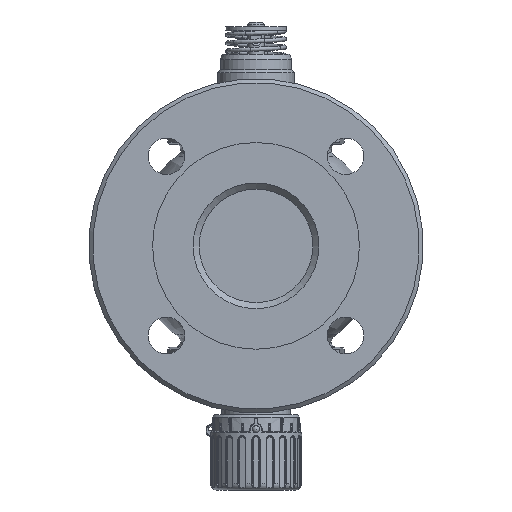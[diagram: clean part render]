
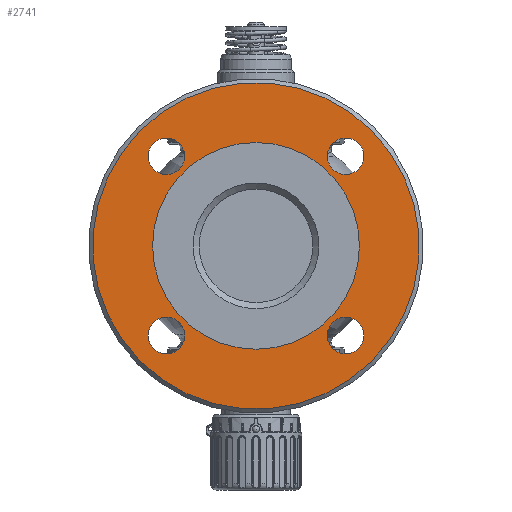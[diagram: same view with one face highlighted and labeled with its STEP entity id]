
A CAD part, left-side view. The second image highlights one B-rep face of the part: STEP entity #2741.
In plain terms, the highlighted planar face has unit normal (-1, 0, 0).
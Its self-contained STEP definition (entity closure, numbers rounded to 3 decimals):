
#1035=PLANE('',#9593);
#1733=CIRCLE('',#9547,51.);
#1756=CIRCLE('',#9588,80.5);
#1757=CIRCLE('',#9589,9.);
#1758=CIRCLE('',#9590,9.);
#1759=CIRCLE('',#9591,9.);
#1760=CIRCLE('',#9592,9.);
#2741=ADVANCED_FACE('',(#3084,#3085,#3086,#3087,#3088,#3089),#1035,.T.);
#3084=FACE_BOUND('',#3780,.T.);
#3085=FACE_BOUND('',#3781,.T.);
#3086=FACE_BOUND('',#3782,.T.);
#3087=FACE_BOUND('',#3783,.T.);
#3088=FACE_BOUND('',#3784,.T.);
#3089=FACE_BOUND('',#3785,.T.);
#3780=EDGE_LOOP('',(#6232));
#3781=EDGE_LOOP('',(#6233));
#3782=EDGE_LOOP('',(#6234));
#3783=EDGE_LOOP('',(#6235));
#3784=EDGE_LOOP('',(#6236));
#3785=EDGE_LOOP('',(#6237));
#6232=ORIENTED_EDGE('',*,*,#8271,.T.);
#6233=ORIENTED_EDGE('',*,*,#8242,.T.);
#6234=ORIENTED_EDGE('',*,*,#8272,.T.);
#6235=ORIENTED_EDGE('',*,*,#8273,.T.);
#6236=ORIENTED_EDGE('',*,*,#8274,.T.);
#6237=ORIENTED_EDGE('',*,*,#8275,.T.);
#7020=VERTEX_POINT('',#30184);
#7045=VERTEX_POINT('',#30286);
#7046=VERTEX_POINT('',#30288);
#7047=VERTEX_POINT('',#30290);
#7048=VERTEX_POINT('',#30292);
#7049=VERTEX_POINT('',#30294);
#8242=EDGE_CURVE('',#7020,#7020,#1733,.T.);
#8271=EDGE_CURVE('',#7045,#7045,#1756,.T.);
#8272=EDGE_CURVE('',#7046,#7046,#1757,.T.);
#8273=EDGE_CURVE('',#7047,#7047,#1758,.T.);
#8274=EDGE_CURVE('',#7048,#7048,#1759,.T.);
#8275=EDGE_CURVE('',#7049,#7049,#1760,.T.);
#9547=AXIS2_PLACEMENT_3D('',#30183,#11744,#11745);
#9588=AXIS2_PLACEMENT_3D('',#30285,#11830,#11831);
#9589=AXIS2_PLACEMENT_3D('',#30287,#11832,#11833);
#9590=AXIS2_PLACEMENT_3D('',#30289,#11834,#11835);
#9591=AXIS2_PLACEMENT_3D('',#30291,#11836,#11837);
#9592=AXIS2_PLACEMENT_3D('',#30293,#11838,#11839);
#9593=AXIS2_PLACEMENT_3D('',#30295,#11840,#11841);
#11744=DIRECTION('',(1.,0.,0.));
#11745=DIRECTION('',(0.,0.,1.));
#11830=DIRECTION('',(-1.,0.,0.));
#11831=DIRECTION('',(0.,-0.707,-0.707));
#11832=DIRECTION('',(1.,0.,0.));
#11833=DIRECTION('',(0.,0.707,-0.707));
#11834=DIRECTION('',(1.,0.,0.));
#11835=DIRECTION('',(0.,-0.707,-0.707));
#11836=DIRECTION('',(1.,0.,0.));
#11837=DIRECTION('',(0.,-0.707,0.707));
#11838=DIRECTION('',(1.,0.,0.));
#11839=DIRECTION('',(0.,0.707,0.707));
#11840=DIRECTION('',(-1.,0.,0.));
#11841=DIRECTION('',(0.,-0.707,-0.707));
#30183=CARTESIAN_POINT('',(-112.,0.,0.));
#30184=CARTESIAN_POINT('',(-112.,0.,51.));
#30285=CARTESIAN_POINT('',(-112.,0.,0.));
#30286=CARTESIAN_POINT('',(-112.,-56.922,-56.922));
#30287=CARTESIAN_POINT('',(-112.,-44.194,-44.194));
#30288=CARTESIAN_POINT('',(-112.,-37.83,-50.558));
#30289=CARTESIAN_POINT('',(-112.,-44.194,44.194));
#30290=CARTESIAN_POINT('',(-112.,-50.558,37.83));
#30291=CARTESIAN_POINT('',(-112.,44.194,44.194));
#30292=CARTESIAN_POINT('',(-112.,37.83,50.558));
#30293=CARTESIAN_POINT('',(-112.,44.194,-44.194));
#30294=CARTESIAN_POINT('',(-112.,50.558,-37.83));
#30295=CARTESIAN_POINT('',(-112.,0.,0.));
